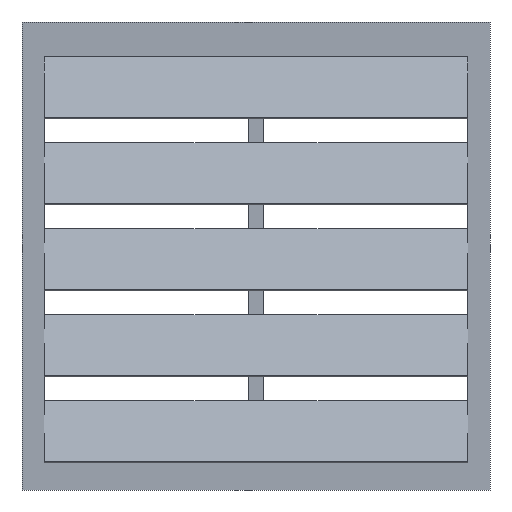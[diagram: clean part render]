
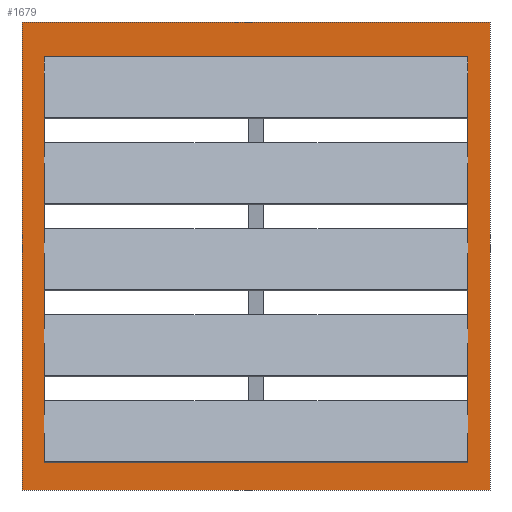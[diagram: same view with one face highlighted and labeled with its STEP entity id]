
A CAD part, front view. The second image highlights one B-rep face of the part: STEP entity #1679.
In plain terms, the highlighted planar face has unit normal (0, -1, 0).
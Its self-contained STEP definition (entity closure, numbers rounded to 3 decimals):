
#25=FACE_BOUND('',#220,.T.);
#133=FACE_OUTER_BOUND('',#219,.T.);
#219=EDGE_LOOP('',(#1496,#1497,#1498,#1499));
#220=EDGE_LOOP('',(#1500,#1501,#1502,#1503,#1504,#1505,#1506,#1507,#1508,
#1509,#1510,#1511,#1512,#1513,#1514,#1515,#1516,#1517,#1518,#1519,#1520,
#1521,#1522,#1523));
#238=LINE('',#2251,#453);
#241=LINE('',#2257,#456);
#264=LINE('',#2302,#479);
#267=LINE('',#2308,#482);
#290=LINE('',#2353,#505);
#293=LINE('',#2359,#508);
#316=LINE('',#2404,#531);
#319=LINE('',#2410,#534);
#344=LINE('',#2455,#559);
#354=LINE('',#2474,#569);
#355=LINE('',#2475,#570);
#356=LINE('',#2476,#571);
#357=LINE('',#2477,#572);
#364=LINE('',#2494,#579);
#383=LINE('',#2545,#598);
#393=LINE('',#2560,#608);
#394=LINE('',#2568,#609);
#396=LINE('',#2571,#611);
#397=LINE('',#2572,#612);
#398=LINE('',#2573,#613);
#399=LINE('',#2574,#614);
#408=LINE('',#2591,#623);
#412=LINE('',#2604,#627);
#427=LINE('',#2643,#642);
#432=LINE('',#2675,#647);
#433=LINE('',#2677,#648);
#434=LINE('',#2679,#649);
#435=LINE('',#2680,#650);
#453=VECTOR('',#1817,10.);
#456=VECTOR('',#1822,10.);
#479=VECTOR('',#1857,10.);
#482=VECTOR('',#1862,10.);
#505=VECTOR('',#1897,10.);
#508=VECTOR('',#1902,10.);
#531=VECTOR('',#1937,10.);
#534=VECTOR('',#1942,10.);
#559=VECTOR('',#1985,10.);
#569=VECTOR('',#1995,10.);
#570=VECTOR('',#1996,10.);
#571=VECTOR('',#1997,10.);
#572=VECTOR('',#1998,10.);
#579=VECTOR('',#2011,10.);
#598=VECTOR('',#2058,10.);
#608=VECTOR('',#2074,10.);
#609=VECTOR('',#2085,10.);
#611=VECTOR('',#2089,10.);
#612=VECTOR('',#2090,10.);
#613=VECTOR('',#2091,10.);
#614=VECTOR('',#2092,10.);
#623=VECTOR('',#2101,10.);
#627=VECTOR('',#2119,10.);
#642=VECTOR('',#2154,10.);
#647=VECTOR('',#2205,10.);
#648=VECTOR('',#2206,10.);
#649=VECTOR('',#2207,10.);
#650=VECTOR('',#2208,10.);
#660=VERTEX_POINT('',#2232);
#663=VERTEX_POINT('',#2238);
#667=VERTEX_POINT('',#2250);
#669=VERTEX_POINT('',#2256);
#678=VERTEX_POINT('',#2283);
#681=VERTEX_POINT('',#2289);
#685=VERTEX_POINT('',#2301);
#687=VERTEX_POINT('',#2307);
#696=VERTEX_POINT('',#2334);
#699=VERTEX_POINT('',#2340);
#703=VERTEX_POINT('',#2352);
#705=VERTEX_POINT('',#2358);
#714=VERTEX_POINT('',#2385);
#717=VERTEX_POINT('',#2391);
#721=VERTEX_POINT('',#2403);
#723=VERTEX_POINT('',#2409);
#734=VERTEX_POINT('',#2454);
#743=VERTEX_POINT('',#2472);
#749=VERTEX_POINT('',#2492);
#750=VERTEX_POINT('',#2493);
#768=VERTEX_POINT('',#2544);
#770=VERTEX_POINT('',#2558);
#772=VERTEX_POINT('',#2567);
#780=VERTEX_POINT('',#2589);
#799=VERTEX_POINT('',#2673);
#800=VERTEX_POINT('',#2674);
#801=VERTEX_POINT('',#2676);
#802=VERTEX_POINT('',#2678);
#816=EDGE_CURVE('',#663,#667,#238,.T.);
#819=EDGE_CURVE('',#669,#660,#241,.T.);
#842=EDGE_CURVE('',#681,#685,#264,.T.);
#845=EDGE_CURVE('',#687,#678,#267,.T.);
#868=EDGE_CURVE('',#699,#703,#290,.T.);
#871=EDGE_CURVE('',#705,#696,#293,.T.);
#894=EDGE_CURVE('',#717,#721,#316,.T.);
#897=EDGE_CURVE('',#723,#714,#319,.T.);
#922=EDGE_CURVE('',#734,#663,#344,.T.);
#932=EDGE_CURVE('',#721,#743,#354,.T.);
#933=EDGE_CURVE('',#703,#717,#355,.T.);
#934=EDGE_CURVE('',#685,#699,#356,.T.);
#935=EDGE_CURVE('',#667,#681,#357,.T.);
#942=EDGE_CURVE('',#749,#750,#364,.T.);
#969=EDGE_CURVE('',#743,#768,#383,.T.);
#979=EDGE_CURVE('',#768,#770,#393,.T.);
#983=EDGE_CURVE('',#772,#749,#394,.T.);
#985=EDGE_CURVE('',#678,#669,#396,.T.);
#986=EDGE_CURVE('',#696,#687,#397,.T.);
#987=EDGE_CURVE('',#714,#705,#398,.T.);
#988=EDGE_CURVE('',#750,#723,#399,.T.);
#997=EDGE_CURVE('',#660,#780,#408,.T.);
#1004=EDGE_CURVE('',#770,#772,#412,.T.);
#1025=EDGE_CURVE('',#780,#734,#427,.T.);
#1038=EDGE_CURVE('',#799,#800,#432,.T.);
#1039=EDGE_CURVE('',#800,#801,#433,.T.);
#1040=EDGE_CURVE('',#801,#802,#434,.T.);
#1041=EDGE_CURVE('',#802,#799,#435,.T.);
#1496=ORIENTED_EDGE('',*,*,#1038,.T.);
#1497=ORIENTED_EDGE('',*,*,#1039,.T.);
#1498=ORIENTED_EDGE('',*,*,#1040,.T.);
#1499=ORIENTED_EDGE('',*,*,#1041,.T.);
#1500=ORIENTED_EDGE('',*,*,#983,.T.);
#1501=ORIENTED_EDGE('',*,*,#942,.T.);
#1502=ORIENTED_EDGE('',*,*,#988,.T.);
#1503=ORIENTED_EDGE('',*,*,#897,.T.);
#1504=ORIENTED_EDGE('',*,*,#987,.T.);
#1505=ORIENTED_EDGE('',*,*,#871,.T.);
#1506=ORIENTED_EDGE('',*,*,#986,.T.);
#1507=ORIENTED_EDGE('',*,*,#845,.T.);
#1508=ORIENTED_EDGE('',*,*,#985,.T.);
#1509=ORIENTED_EDGE('',*,*,#819,.T.);
#1510=ORIENTED_EDGE('',*,*,#997,.T.);
#1511=ORIENTED_EDGE('',*,*,#1025,.T.);
#1512=ORIENTED_EDGE('',*,*,#922,.T.);
#1513=ORIENTED_EDGE('',*,*,#816,.T.);
#1514=ORIENTED_EDGE('',*,*,#935,.T.);
#1515=ORIENTED_EDGE('',*,*,#842,.T.);
#1516=ORIENTED_EDGE('',*,*,#934,.T.);
#1517=ORIENTED_EDGE('',*,*,#868,.T.);
#1518=ORIENTED_EDGE('',*,*,#933,.T.);
#1519=ORIENTED_EDGE('',*,*,#894,.T.);
#1520=ORIENTED_EDGE('',*,*,#932,.T.);
#1521=ORIENTED_EDGE('',*,*,#969,.T.);
#1522=ORIENTED_EDGE('',*,*,#979,.T.);
#1523=ORIENTED_EDGE('',*,*,#1004,.T.);
#1603=PLANE('',#1791);
#1679=ADVANCED_FACE('',(#133,#25),#1603,.T.);
#1791=AXIS2_PLACEMENT_3D('',#2672,#2203,#2204);
#1817=DIRECTION('',(0.,0.,1.));
#1822=DIRECTION('',(0.,0.,-1.));
#1857=DIRECTION('',(0.,0.,1.));
#1862=DIRECTION('',(0.,0.,-1.));
#1897=DIRECTION('',(0.,0.,1.));
#1902=DIRECTION('',(0.,0.,-1.));
#1937=DIRECTION('',(0.,0.,1.));
#1942=DIRECTION('',(0.,0.,-1.));
#1985=DIRECTION('',(0.,0.,1.));
#1995=DIRECTION('',(0.,0.,1.));
#1996=DIRECTION('',(0.,0.,1.));
#1997=DIRECTION('',(0.,0.,1.));
#1998=DIRECTION('',(0.,0.,1.));
#2011=DIRECTION('',(0.,0.,-1.));
#2058=DIRECTION('',(0.,0.,1.));
#2074=DIRECTION('',(0.,0.,1.));
#2085=DIRECTION('',(0.,0.,-1.));
#2089=DIRECTION('',(0.,0.,-1.));
#2090=DIRECTION('',(0.,0.,-1.));
#2091=DIRECTION('',(0.,0.,-1.));
#2092=DIRECTION('',(0.,0.,-1.));
#2101=DIRECTION('',(0.,0.,-1.));
#2119=DIRECTION('',(1.,0.,0.));
#2154=DIRECTION('',(-1.,0.,0.));
#2203=DIRECTION('center_axis',(0.,-1.,0.));
#2204=DIRECTION('ref_axis',(0.,0.,-1.));
#2205=DIRECTION('',(1.,0.,0.));
#2206=DIRECTION('',(0.,0.,1.));
#2207=DIRECTION('',(-1.,0.,0.));
#2208=DIRECTION('',(0.,0.,-1.));
#2232=CARTESIAN_POINT('',(221.5,-15.,-169.328));
#2238=CARTESIAN_POINT('',(-221.5,-15.,-169.328));
#2250=CARTESIAN_POINT('',(-221.5,-15.,-166.5));
#2251=CARTESIAN_POINT('',(-221.5,-15.,-104.25));
#2256=CARTESIAN_POINT('',(221.5,-15.,-166.5));
#2257=CARTESIAN_POINT('',(221.5,-15.,104.25));
#2283=CARTESIAN_POINT('',(221.5,-15.,-79.328));
#2289=CARTESIAN_POINT('',(-221.5,-15.,-79.328));
#2301=CARTESIAN_POINT('',(-221.5,-15.,-76.5));
#2302=CARTESIAN_POINT('',(-221.5,-15.,-104.25));
#2307=CARTESIAN_POINT('',(221.5,-15.,-76.5));
#2308=CARTESIAN_POINT('',(221.5,-15.,104.25));
#2334=CARTESIAN_POINT('',(221.5,-15.,10.672));
#2340=CARTESIAN_POINT('',(-221.5,-15.,10.672));
#2352=CARTESIAN_POINT('',(-221.5,-15.,13.5));
#2353=CARTESIAN_POINT('',(-221.5,-15.,-104.25));
#2358=CARTESIAN_POINT('',(221.5,-15.,13.5));
#2359=CARTESIAN_POINT('',(221.5,-15.,104.25));
#2385=CARTESIAN_POINT('',(221.5,-15.,100.672));
#2391=CARTESIAN_POINT('',(-221.5,-15.,100.672));
#2403=CARTESIAN_POINT('',(-221.5,-15.,103.5));
#2404=CARTESIAN_POINT('',(-221.5,-15.,-104.25));
#2409=CARTESIAN_POINT('',(221.5,-15.,103.5));
#2410=CARTESIAN_POINT('',(221.5,-15.,104.25));
#2454=CARTESIAN_POINT('',(-221.5,-15.,-208.5));
#2455=CARTESIAN_POINT('',(-221.5,-15.,-104.25));
#2472=CARTESIAN_POINT('',(-221.5,-15.,190.672));
#2474=CARTESIAN_POINT('',(-221.5,-15.,-104.25));
#2475=CARTESIAN_POINT('',(-221.5,-15.,-104.25));
#2476=CARTESIAN_POINT('',(-221.5,-15.,-104.25));
#2477=CARTESIAN_POINT('',(-221.5,-15.,-104.25));
#2492=CARTESIAN_POINT('',(221.5,-15.,193.5));
#2493=CARTESIAN_POINT('',(221.5,-15.,190.672));
#2494=CARTESIAN_POINT('',(221.5,-15.,104.25));
#2544=CARTESIAN_POINT('',(-221.5,-15.,193.5));
#2545=CARTESIAN_POINT('',(-221.5,-15.,-104.25));
#2558=CARTESIAN_POINT('',(-221.5,-15.,208.5));
#2560=CARTESIAN_POINT('',(-221.5,-15.,-104.25));
#2567=CARTESIAN_POINT('',(221.5,-15.,208.5));
#2568=CARTESIAN_POINT('',(221.5,-15.,104.25));
#2571=CARTESIAN_POINT('',(221.5,-15.,104.25));
#2572=CARTESIAN_POINT('',(221.5,-15.,104.25));
#2573=CARTESIAN_POINT('',(221.5,-15.,104.25));
#2574=CARTESIAN_POINT('',(221.5,-15.,104.25));
#2589=CARTESIAN_POINT('',(221.5,-15.,-208.5));
#2591=CARTESIAN_POINT('',(221.5,-15.,104.25));
#2604=CARTESIAN_POINT('',(-110.75,-15.,208.5));
#2643=CARTESIAN_POINT('',(110.75,-15.,-208.5));
#2672=CARTESIAN_POINT('Origin',(0.,-15.,0.));
#2673=CARTESIAN_POINT('',(-245.,-15.,-245.));
#2674=CARTESIAN_POINT('',(245.,-15.,-245.));
#2675=CARTESIAN_POINT('',(-245.,-15.,-245.));
#2676=CARTESIAN_POINT('',(245.,-15.,245.));
#2677=CARTESIAN_POINT('',(245.,-15.,-245.));
#2678=CARTESIAN_POINT('',(-245.,-15.,245.));
#2679=CARTESIAN_POINT('',(245.,-15.,245.));
#2680=CARTESIAN_POINT('',(-245.,-15.,245.));
